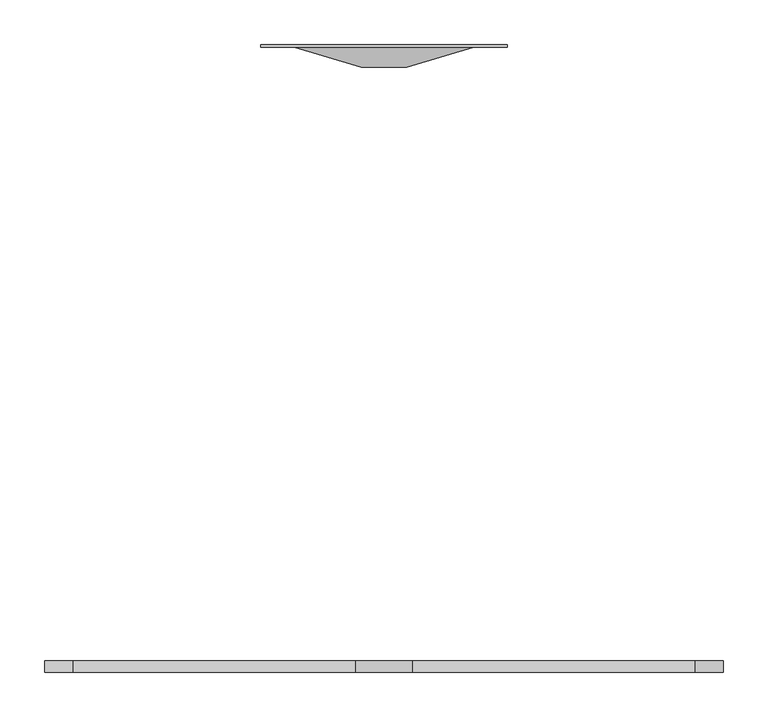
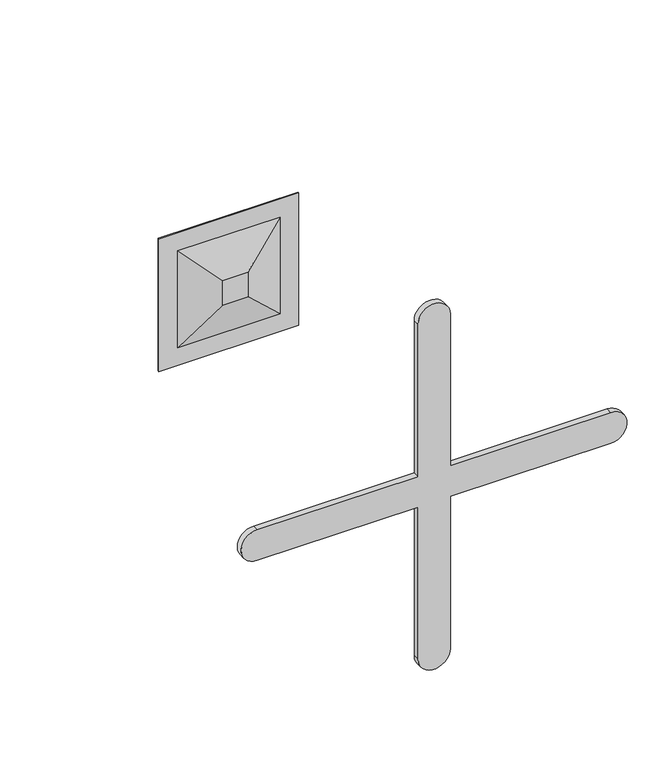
"""IFC4 building model written with IfcOpenShell, lengths in millimetres: proxy geometry, WCI^DUNHILL_X BASE-42sq TOP."""

from ifc_helpers import new_model, si_unit, point, frame, frame_2d, origin, place, context, project, spatial, polyline, circle_curve, trimmed, segment, composite_curve, outline, extrude, faceted_brep, source, transform, mapped, element, save


def generic_models_a0847e05(model_context):
    return source(origin(), model_context, "Body", "SolidModel", [
        faceted_brep([(25.4, 666.75, 25.4), (-25.4, 666.75, 25.4), (-25.4, 666.75, -25.4), (25.4, 666.75, -25.4), (-138.1125, 692.15, 138.1125), (138.1125, 692.15, 138.1125), (138.1125, 692.15, -138.1125), (-138.1125, 692.15, -138.1125), (-100.7618, 689.102, 100.7618), (100.7618, 689.102, 100.7618), (-100.7618, 689.102, -100.7618), (-138.1125, 689.102, -138.1125), (138.1125, 689.102, -138.1125), (138.1125, 689.102, 138.1125), (-138.1125, 689.102, 138.1125), (100.7618, 689.102, -100.7618)], [[[0, 1, 2, 3]], [[4, 5, 6, 7]], [[8, 1, 0, 9]], [[10, 2, 1, 8]], [[11, 12, 13, 14], [9, 15, 10, 8]], [[15, 3, 2, 10]], [[9, 0, 3, 15]], [[13, 12, 6, 5]], [[12, 11, 7, 6]], [[11, 14, 4, 7]], [[14, 13, 5, 4]]]),
        extrude(outline(composite_curve([segment(trimmed(circle_curve(frame_2d((349.25, 0.0)), 31.75), [point((349.25, 31.75))], [point((349.25, -31.75))], False, "CARTESIAN"), True, "CONTINUOUS"), segment(polyline([(349.25, -31.75), (31.75, -31.75), (31.75, -349.25)]), True, "CONTINUOUS"), segment(trimmed(circle_curve(frame_2d((0.0, -349.25)), 31.75), [point((31.75, -349.25))], [point((-31.75, -349.25))], False, "CARTESIAN"), True, "CONTINUOUS"), segment(polyline([(-31.75, -349.25), (-31.75, -31.75), (-349.25, -31.75)]), True, "CONTINUOUS"), segment(trimmed(circle_curve(frame_2d((-349.25, 0.0)), 31.75), [point((-349.25, -31.75))], [point((-349.25, 31.75))], False, "CARTESIAN"), True, "CONTINUOUS"), segment(polyline([(-349.25, 31.75), (-31.75, 31.75), (-31.75, 349.25)]), True, "CONTINUOUS"), segment(trimmed(circle_curve(frame_2d((0.0, 349.25)), 31.75), [point((-31.75, 349.25))], [point((31.75, 349.25))], False, "CARTESIAN"), True, "CONTINUOUS"), segment(polyline([(31.75, 349.25), (31.75, 31.75), (349.25, 31.75)]), True, "CONTINUOUS")], self_intersect=False)), frame((0.0, -12.7, 0.0), z_axis=(0.0, 1.0, 0.0), x_axis=(0.0, 0.0, 1.0)), (0.0, 0.0, 1.0), 12.7),
    ])


if __name__ == "__main__":
    model = new_model("IFC4")
    model_context = context("Model", 3, world=origin())
    ifc_project = project(units=[si_unit("LENGTHUNIT", "METRE", prefix="MILLI")], contexts=[model_context])
    site = spatial("IfcSite", under=ifc_project)
    building = spatial("IfcBuilding", under=site)
    placement = place(None, origin())
    generic_models_shape = generic_models_a0847e05(model_context)
    element("IfcBuildingElementProxy", 1, Name="WCI^DUNHILL_X BASE-42sq TOP", ObjectType="WCI^DUNHILL_X BASE-42sq TOP", at=placement, inside=building, context=model_context, shape_type="MappedRepresentation", body=[
        mapped(generic_models_shape, transform((0.0, 0.0, 0.0), x_axis=(1.0, 0.0, 0.0), y_axis=(0.0, 1.0, 0.0), z_axis=(0.0, 0.0, 1.0))),
    ])
    save(model, "model.ifc")
